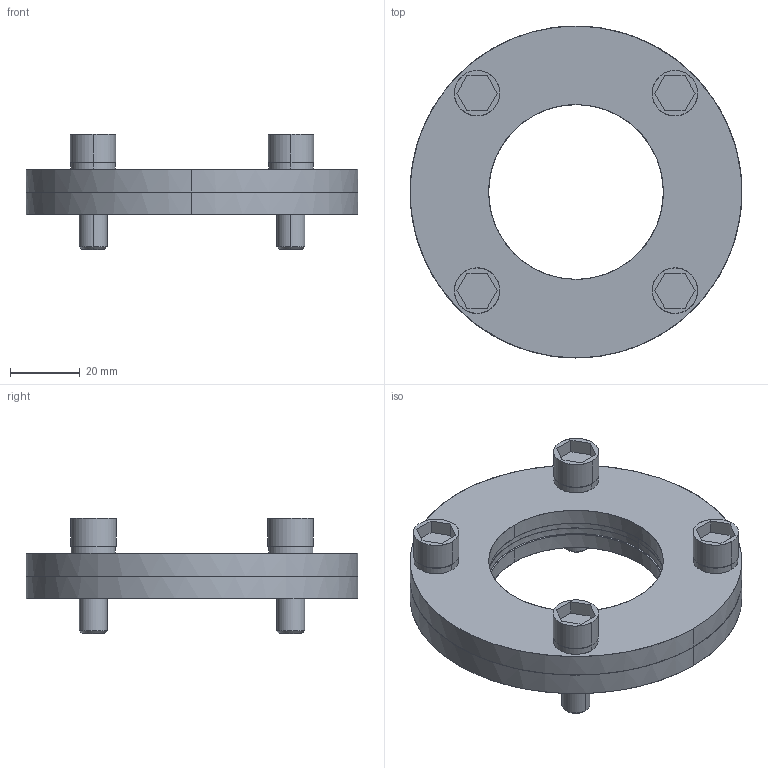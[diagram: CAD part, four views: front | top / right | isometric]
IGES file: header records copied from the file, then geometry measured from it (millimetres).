
Global section: file name: E:\UnigraphicsGraphicData\MISUMI_PRESS-PARTS\IGES\3d_kf50_04240_r00.igs; native system: NX V5.0; preprocessor: UGS NX IGES V5.0; author: MISUMI; date: 20110105.161127; units: millimetre
Bounding box: 95 x 95 x 33 mm (x, y, z)
Surface area: 33401.5 mm2 (no closed solid volume)
Topology: 0 solids, 0 shells, 122 faces, 992 edges, 992 vertices
Faces by surface type: bspline 122
